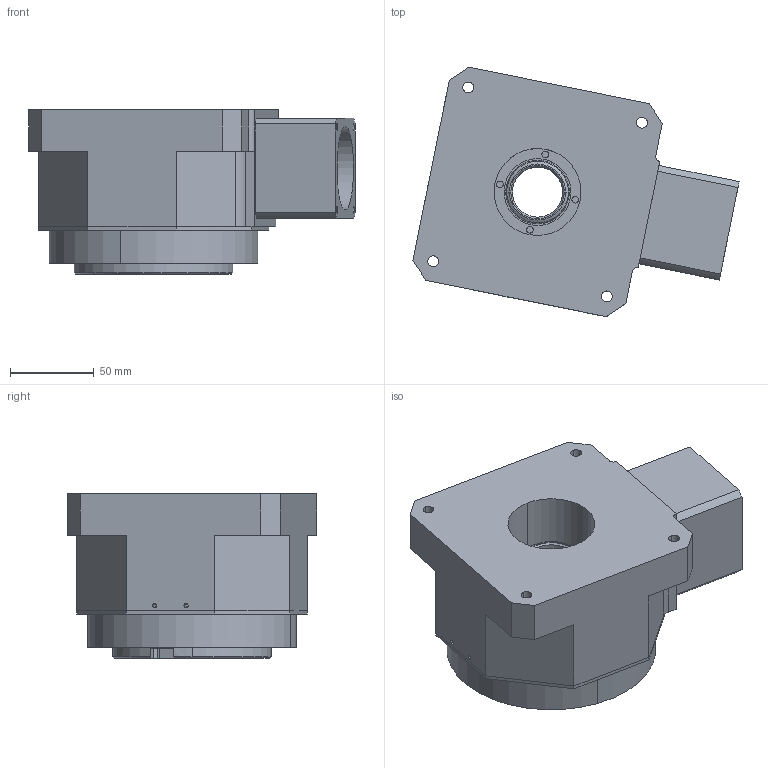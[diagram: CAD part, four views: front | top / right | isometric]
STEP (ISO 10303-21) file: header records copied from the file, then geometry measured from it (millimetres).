
FILE_DESCRIPTION (( 'STEP AP203' ), '1' );
FILE_NAME ('HTM130-L1-16-50-70-M5.STEP', '2024-07-25T08:01:25', ( 'Windows User' ), ( 'P R C' ), 'SwSTEP 2.0', 'SolidWorks 2016', '' );
FILE_SCHEMA (( 'CONFIG_CONTROL_DESIGN' ));
Length unit declared in the file: millimetre
Products named in the file (10): HTM130-L1-16-50-70-M5; 60-喘謫; 60-͹̨; 60-眊极; 60-蚐猾; 60-粣創; HTM130-L1-郪蚾璃; HTM130訇喘綴楊擘; HTM130-斜齿输入轴; 60-怀堤粣
Assembly tree (9 placements, depth 3):
  HTM130-L1-16-50-70-M5
    HTM130-L1-郪蚾璃
      60-怀堤粣
      60-喘謫
      60-͹̨
      60-眊极
      60-蚐猾
      60-粣創
    HTM130訇喘綴楊擘
    HTM130-斜齿输入轴
Bounding box: 195.24 x 149.23 x 98.5 mm (x, y, z)
Volume: 1238509.4 mm3; surface area: 254238 mm2
Topology: 8 solids, 8 shells, 1093 faces, 2860 edges, 1832 vertices
Faces by surface type: plane 514, cylinder 288, bspline 160, cone 131
Entity records: 40816 total; most frequent: CARTESIAN_POINT 13610, ORIENTED_EDGE 5544, DIRECTION 4986, EDGE_CURVE 2772, VERTEX_POINT 1832, VECTOR 1786, LINE 1786, AXIS2_PLACEMENT_3D 1600
